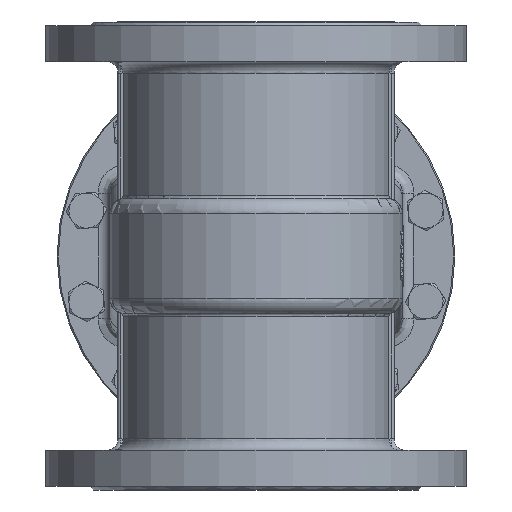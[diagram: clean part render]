
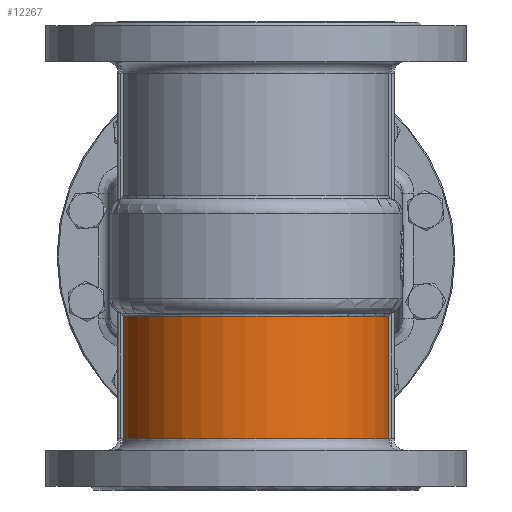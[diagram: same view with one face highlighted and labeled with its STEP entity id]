
A CAD part, front view. The second image highlights one B-rep face of the part: STEP entity #12267.
In plain terms, the highlighted cylindrical face has radius 115 mm (diameter 230 mm), a partial arc.
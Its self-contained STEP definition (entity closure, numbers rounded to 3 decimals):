
#12267=ADVANCED_FACE('',(#25273),#25275,.T.);
#25273=FACE_BOUND('',#25274,.T.);
#25274=EDGE_LOOP('',(#33222,#33223,#33224,#33225));
#25275=CYLINDRICAL_SURFACE('',#25276,115.);
#25276=AXIS2_PLACEMENT_3D('',#25277,#25278,#25279);
#25277=CARTESIAN_POINT('',(0.,0.,-141.));
#25278=DIRECTION('',(0.,0.,1.));
#25279=DIRECTION('',(1.,0.,0.));
#33222=ORIENTED_EDGE('',*,*,#37301,.F.);
#33223=ORIENTED_EDGE('',*,*,#37119,.T.);
#33224=ORIENTED_EDGE('',*,*,#37115,.F.);
#33225=ORIENTED_EDGE('',*,*,#37112,.F.);
#37112=EDGE_CURVE('',#42646,#42649,#42650,.T.);
#37115=EDGE_CURVE('',#42649,#42653,#42654,.T.);
#37119=EDGE_CURVE('',#42657,#42653,#42660,.T.);
#37301=EDGE_CURVE('',#42657,#42646,#42929,.F.);
#42646=VERTEX_POINT('',#78697);
#42649=VERTEX_POINT('',#78702);
#42650=LINE('',#78703,#78704);
#42653=VERTEX_POINT('',#78787);
#42654=CIRCLE('',#78788,115.);
#42657=VERTEX_POINT('',#78863);
#42660=LINE('',#78870,#78871);
#42929=CIRCLE('',#80526,115.);
#78697=CARTESIAN_POINT('',(-113.661,-17.5,-156.));
#78702=CARTESIAN_POINT('',(-113.661,-17.5,-51.492));
#78703=CARTESIAN_POINT('',(-113.661,-17.5,-156.));
#78704=VECTOR('',#78705,1.);
#78705=DIRECTION('',(0.,0.,1.));
#78787=CARTESIAN_POINT('',(113.661,-17.5,-51.492));
#78788=AXIS2_PLACEMENT_3D('',#78789,#78790,#78791);
#78789=CARTESIAN_POINT('',(0.,0.,-51.492));
#78790=DIRECTION('',(0.,0.,1.));
#78791=DIRECTION('',(-0.988,-0.152,0.));
#78863=CARTESIAN_POINT('',(113.661,-17.5,-156.));
#78870=CARTESIAN_POINT('',(113.661,-17.5,-156.));
#78871=VECTOR('',#78872,1.);
#78872=DIRECTION('',(0.,0.,1.));
#80526=AXIS2_PLACEMENT_3D('',#80527,#80528,#80529);
#80527=CARTESIAN_POINT('',(0.,0.,-156.));
#80528=DIRECTION('',(0.,0.,1.));
#80529=DIRECTION('',(-0.988,-0.152,0.));
